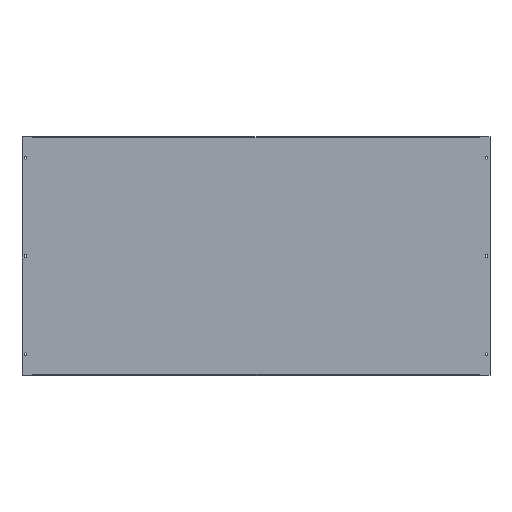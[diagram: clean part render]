
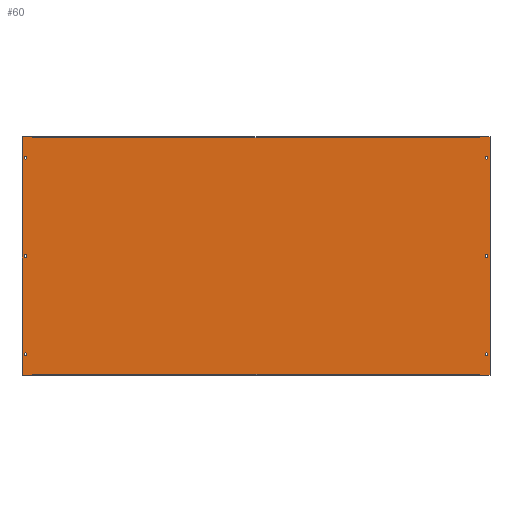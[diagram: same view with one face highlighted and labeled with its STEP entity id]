
A CAD part, top view. The second image highlights one B-rep face of the part: STEP entity #60.
In plain terms, the highlighted planar face has unit normal (0, 0, 1).
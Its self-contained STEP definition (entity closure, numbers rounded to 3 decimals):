
#60=ADVANCED_FACE('',(#166,#168,#170,#172,#174,#176,#178),#180,.F.);
#166=FACE_BOUND('',#167,.T.);
#167=EDGE_LOOP('',(#443,#444,#445,#446,#447,#448,#449,#450,#451,#452,#453,#454,#455,
#456,#457,#458));
#168=FACE_BOUND('',#169,.T.);
#169=EDGE_LOOP('',(#459));
#170=FACE_BOUND('',#171,.T.);
#171=EDGE_LOOP('',(#460));
#172=FACE_BOUND('',#173,.T.);
#173=EDGE_LOOP('',(#461));
#174=FACE_BOUND('',#175,.T.);
#175=EDGE_LOOP('',(#462));
#176=FACE_BOUND('',#177,.T.);
#177=EDGE_LOOP('',(#463));
#178=FACE_BOUND('',#179,.T.);
#179=EDGE_LOOP('',(#464));
#180=PLANE('',#181);
#181=AXIS2_PLACEMENT_3D('',#182,#183,#184);
#182=CARTESIAN_POINT('',(0.,0.,0.));
#183=DIRECTION('',(0.,0.,-1.));
#184=DIRECTION('',(-1.,0.,0.));
#443=ORIENTED_EDGE('',*,*,#621,.F.);
#444=ORIENTED_EDGE('',*,*,#622,.T.);
#445=ORIENTED_EDGE('',*,*,#623,.F.);
#446=ORIENTED_EDGE('',*,*,#624,.F.);
#447=ORIENTED_EDGE('',*,*,#625,.T.);
#448=ORIENTED_EDGE('',*,*,#626,.T.);
#449=ORIENTED_EDGE('',*,*,#627,.T.);
#450=ORIENTED_EDGE('',*,*,#628,.F.);
#451=ORIENTED_EDGE('',*,*,#629,.F.);
#452=ORIENTED_EDGE('',*,*,#630,.T.);
#453=ORIENTED_EDGE('',*,*,#631,.F.);
#454=ORIENTED_EDGE('',*,*,#632,.F.);
#455=ORIENTED_EDGE('',*,*,#633,.T.);
#456=ORIENTED_EDGE('',*,*,#634,.T.);
#457=ORIENTED_EDGE('',*,*,#635,.T.);
#458=ORIENTED_EDGE('',*,*,#636,.F.);
#459=ORIENTED_EDGE('',*,*,#593,.T.);
#460=ORIENTED_EDGE('',*,*,#595,.T.);
#461=ORIENTED_EDGE('',*,*,#597,.T.);
#462=ORIENTED_EDGE('',*,*,#599,.F.);
#463=ORIENTED_EDGE('',*,*,#601,.F.);
#464=ORIENTED_EDGE('',*,*,#603,.F.);
#593=EDGE_CURVE('',#685,#685,#686,.T.);
#595=EDGE_CURVE('',#689,#689,#690,.T.);
#597=EDGE_CURVE('',#693,#693,#694,.T.);
#599=EDGE_CURVE('',#697,#697,#698,.T.);
#601=EDGE_CURVE('',#701,#701,#702,.T.);
#603=EDGE_CURVE('',#705,#705,#706,.T.);
#621=EDGE_CURVE('',#741,#742,#743,.T.);
#622=EDGE_CURVE('',#741,#744,#745,.T.);
#623=EDGE_CURVE('',#746,#744,#747,.T.);
#624=EDGE_CURVE('',#748,#746,#749,.T.);
#625=EDGE_CURVE('',#748,#750,#751,.T.);
#626=EDGE_CURVE('',#750,#752,#753,.T.);
#627=EDGE_CURVE('',#752,#754,#755,.T.);
#628=EDGE_CURVE('',#756,#754,#757,.T.);
#629=EDGE_CURVE('',#758,#756,#759,.T.);
#630=EDGE_CURVE('',#758,#760,#761,.T.);
#631=EDGE_CURVE('',#762,#760,#763,.T.);
#632=EDGE_CURVE('',#764,#762,#765,.T.);
#633=EDGE_CURVE('',#764,#766,#767,.T.);
#634=EDGE_CURVE('',#766,#768,#769,.T.);
#635=EDGE_CURVE('',#768,#770,#771,.T.);
#636=EDGE_CURVE('',#742,#770,#772,.T.);
#685=VERTEX_POINT('',#837);
#686=CIRCLE('',#838,3.15);
#689=VERTEX_POINT('',#847);
#690=CIRCLE('',#848,3.15);
#693=VERTEX_POINT('',#857);
#694=CIRCLE('',#858,3.15);
#697=VERTEX_POINT('',#867);
#698=CIRCLE('',#868,3.15);
#701=VERTEX_POINT('',#877);
#702=CIRCLE('',#878,3.15);
#705=VERTEX_POINT('',#887);
#706=CIRCLE('',#888,3.15);
#741=VERTEX_POINT('',#961);
#742=VERTEX_POINT('',#962);
#743=LINE('',#963,#964);
#744=VERTEX_POINT('',#966);
#745=LINE('',#967,#968);
#746=VERTEX_POINT('',#970);
#747=LINE('',#971,#972);
#748=VERTEX_POINT('',#974);
#749=LINE('',#975,#976);
#750=VERTEX_POINT('',#978);
#751=LINE('',#979,#980);
#752=VERTEX_POINT('',#982);
#753=LINE('',#983,#984);
#754=VERTEX_POINT('',#986);
#755=LINE('',#987,#988);
#756=VERTEX_POINT('',#990);
#757=LINE('',#991,#992);
#758=VERTEX_POINT('',#994);
#759=LINE('',#995,#996);
#760=VERTEX_POINT('',#998);
#761=LINE('',#999,#1000);
#762=VERTEX_POINT('',#1002);
#763=LINE('',#1003,#1004);
#764=VERTEX_POINT('',#1006);
#765=LINE('',#1007,#1008);
#766=VERTEX_POINT('',#1010);
#767=LINE('',#1011,#1012);
#768=VERTEX_POINT('',#1014);
#769=LINE('',#1015,#1016);
#770=VERTEX_POINT('',#1018);
#771=LINE('',#1019,#1020);
#772=LINE('',#1022,#1023);
#837=CARTESIAN_POINT('',(531.15,225.,0.));
#838=AXIS2_PLACEMENT_3D('',#839,#840,#841);
#839=CARTESIAN_POINT('',(528.,225.,0.));
#840=DIRECTION('',(0.,0.,-1.));
#841=DIRECTION('',(1.,0.,0.));
#847=CARTESIAN_POINT('',(531.15,-225.,0.));
#848=AXIS2_PLACEMENT_3D('',#849,#850,#851);
#849=CARTESIAN_POINT('',(528.,-225.,0.));
#850=DIRECTION('',(0.,0.,-1.));
#851=DIRECTION('',(1.,0.,0.));
#857=CARTESIAN_POINT('',(531.15,0.,0.));
#858=AXIS2_PLACEMENT_3D('',#859,#860,#861);
#859=CARTESIAN_POINT('',(528.,0.,0.));
#860=DIRECTION('',(0.,0.,-1.));
#861=DIRECTION('',(1.,0.,0.));
#867=CARTESIAN_POINT('',(-524.85,225.,0.));
#868=AXIS2_PLACEMENT_3D('',#869,#870,#871);
#869=CARTESIAN_POINT('',(-528.,225.,0.));
#870=DIRECTION('',(0.,0.,1.));
#871=DIRECTION('',(-1.,0.,0.));
#877=CARTESIAN_POINT('',(-524.85,-225.,0.));
#878=AXIS2_PLACEMENT_3D('',#879,#880,#881);
#879=CARTESIAN_POINT('',(-528.,-225.,0.));
#880=DIRECTION('',(0.,0.,1.));
#881=DIRECTION('',(-1.,0.,0.));
#887=CARTESIAN_POINT('',(-524.85,0.,0.));
#888=AXIS2_PLACEMENT_3D('',#889,#890,#891);
#889=CARTESIAN_POINT('',(-528.,0.,0.));
#890=DIRECTION('',(0.,0.,1.));
#891=DIRECTION('',(-1.,0.,0.));
#961=CARTESIAN_POINT('',(511.,270.3,0.));
#962=CARTESIAN_POINT('',(513.,270.3,0.));
#963=CARTESIAN_POINT('',(511.,270.3,0.));
#964=VECTOR('',#965,1.);
#965=DIRECTION('',(1.,0.,0.));
#966=CARTESIAN_POINT('',(-511.,270.3,0.));
#967=CARTESIAN_POINT('',(511.,270.3,0.));
#968=VECTOR('',#969,1.);
#969=DIRECTION('',(-1.,0.,0.));
#970=CARTESIAN_POINT('',(-513.,270.3,0.));
#971=CARTESIAN_POINT('',(-513.,270.3,0.));
#972=VECTOR('',#973,1.);
#973=DIRECTION('',(1.,0.,0.));
#974=CARTESIAN_POINT('',(-513.,273.5,0.));
#975=CARTESIAN_POINT('',(-513.,273.5,0.));
#976=VECTOR('',#977,1.);
#977=DIRECTION('',(0.,-1.,0.));
#978=CARTESIAN_POINT('',(-536.,273.5,0.));
#979=CARTESIAN_POINT('',(-513.,273.5,0.));
#980=VECTOR('',#981,1.);
#981=DIRECTION('',(-1.,0.,0.));
#982=CARTESIAN_POINT('',(-536.,-273.5,0.));
#983=CARTESIAN_POINT('',(-536.,273.5,0.));
#984=VECTOR('',#985,1.);
#985=DIRECTION('',(0.,-1.,0.));
#986=CARTESIAN_POINT('',(-513.,-273.5,0.));
#987=CARTESIAN_POINT('',(-536.,-273.5,0.));
#988=VECTOR('',#989,1.);
#989=DIRECTION('',(1.,0.,0.));
#990=CARTESIAN_POINT('',(-513.,-270.3,0.));
#991=CARTESIAN_POINT('',(-513.,-270.3,0.));
#992=VECTOR('',#993,1.);
#993=DIRECTION('',(0.,-1.,0.));
#994=CARTESIAN_POINT('',(-511.,-270.3,0.));
#995=CARTESIAN_POINT('',(-511.,-270.3,0.));
#996=VECTOR('',#997,1.);
#997=DIRECTION('',(-1.,0.,0.));
#998=CARTESIAN_POINT('',(511.,-270.3,0.));
#999=CARTESIAN_POINT('',(-511.,-270.3,0.));
#1000=VECTOR('',#1001,1.);
#1001=DIRECTION('',(1.,0.,0.));
#1002=CARTESIAN_POINT('',(513.,-270.3,0.));
#1003=CARTESIAN_POINT('',(513.,-270.3,0.));
#1004=VECTOR('',#1005,1.);
#1005=DIRECTION('',(-1.,0.,0.));
#1006=CARTESIAN_POINT('',(513.,-273.5,0.));
#1007=CARTESIAN_POINT('',(513.,-273.5,0.));
#1008=VECTOR('',#1009,1.);
#1009=DIRECTION('',(0.,1.,0.));
#1010=CARTESIAN_POINT('',(536.,-273.5,0.));
#1011=CARTESIAN_POINT('',(513.,-273.5,0.));
#1012=VECTOR('',#1013,1.);
#1013=DIRECTION('',(1.,0.,0.));
#1014=CARTESIAN_POINT('',(536.,273.5,0.));
#1015=CARTESIAN_POINT('',(536.,-273.5,0.));
#1016=VECTOR('',#1017,1.);
#1017=DIRECTION('',(0.,1.,0.));
#1018=CARTESIAN_POINT('',(513.,273.5,0.));
#1019=CARTESIAN_POINT('',(536.,273.5,0.));
#1020=VECTOR('',#1021,1.);
#1021=DIRECTION('',(-1.,0.,0.));
#1022=CARTESIAN_POINT('',(513.,270.3,0.));
#1023=VECTOR('',#1024,1.);
#1024=DIRECTION('',(0.,1.,0.));
